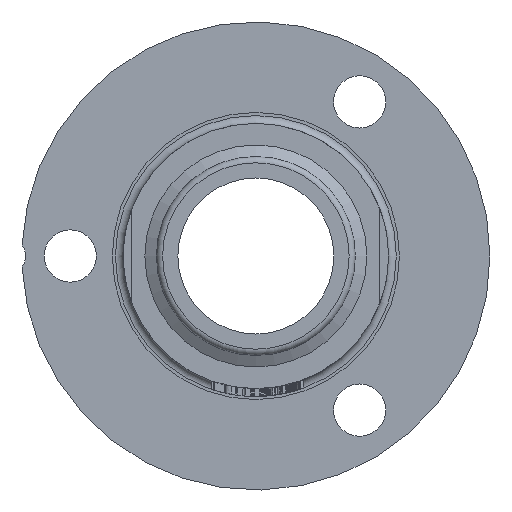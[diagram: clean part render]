
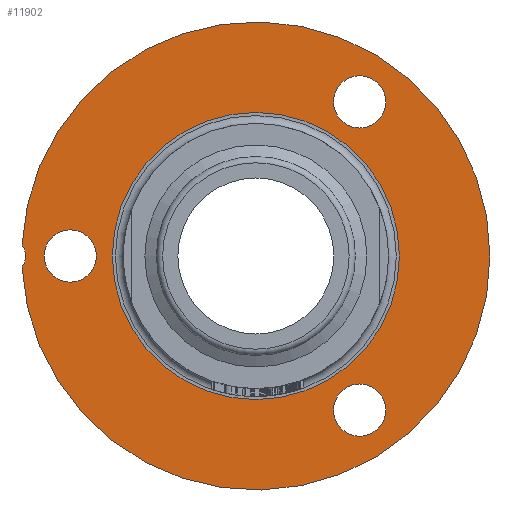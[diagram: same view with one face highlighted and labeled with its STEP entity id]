
A CAD part, front view. The second image highlights one B-rep face of the part: STEP entity #11902.
In plain terms, the highlighted planar face has unit normal (0, -1, 0).
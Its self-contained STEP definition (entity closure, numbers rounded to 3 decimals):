
#797=PLANE('',#12973);
#1020=FACE_BOUND('',#2341,.T.);
#1021=FACE_BOUND('',#2342,.T.);
#1022=FACE_BOUND('',#2343,.T.);
#1023=FACE_BOUND('',#2344,.T.);
#1646=FACE_OUTER_BOUND('',#2340,.T.);
#2340=EDGE_LOOP('',(#11092,#11093));
#2341=EDGE_LOOP('',(#11094,#11095));
#2342=EDGE_LOOP('',(#11096,#11097));
#2343=EDGE_LOOP('',(#11098,#11099));
#2344=EDGE_LOOP('',(#11100,#11101));
#2596=CIRCLE('',#12952,2.5);
#2607=CIRCLE('',#12965,3.35);
#2608=CIRCLE('',#12966,3.35);
#2609=CIRCLE('',#12968,3.35);
#2610=CIRCLE('',#12969,3.35);
#2611=CIRCLE('',#12971,3.35);
#2612=CIRCLE('',#12972,3.35);
#2613=CIRCLE('',#12974,30.);
#2614=CIRCLE('',#12975,18.4);
#2615=CIRCLE('',#12976,18.4);
#5825=VERTEX_POINT('',#26368);
#5827=VERTEX_POINT('',#26371);
#5837=VERTEX_POINT('',#26395);
#5838=VERTEX_POINT('',#26396);
#5839=VERTEX_POINT('',#26401);
#5840=VERTEX_POINT('',#26402);
#5841=VERTEX_POINT('',#26407);
#5842=VERTEX_POINT('',#26408);
#5843=VERTEX_POINT('',#26414);
#5844=VERTEX_POINT('',#26415);
#7587=EDGE_CURVE('',#5827,#5825,#2596,.T.);
#7599=EDGE_CURVE('',#5837,#5838,#2607,.T.);
#7600=EDGE_CURVE('',#5838,#5837,#2608,.T.);
#7602=EDGE_CURVE('',#5839,#5840,#2609,.T.);
#7603=EDGE_CURVE('',#5840,#5839,#2610,.T.);
#7605=EDGE_CURVE('',#5841,#5842,#2611,.T.);
#7606=EDGE_CURVE('',#5842,#5841,#2612,.T.);
#7608=EDGE_CURVE('',#5827,#5825,#2613,.T.);
#7609=EDGE_CURVE('',#5843,#5844,#2614,.T.);
#7610=EDGE_CURVE('',#5844,#5843,#2615,.T.);
#11092=ORIENTED_EDGE('',*,*,#7587,.T.);
#11093=ORIENTED_EDGE('',*,*,#7608,.F.);
#11094=ORIENTED_EDGE('',*,*,#7599,.T.);
#11095=ORIENTED_EDGE('',*,*,#7600,.T.);
#11096=ORIENTED_EDGE('',*,*,#7602,.T.);
#11097=ORIENTED_EDGE('',*,*,#7603,.T.);
#11098=ORIENTED_EDGE('',*,*,#7605,.T.);
#11099=ORIENTED_EDGE('',*,*,#7606,.T.);
#11100=ORIENTED_EDGE('',*,*,#7609,.T.);
#11101=ORIENTED_EDGE('',*,*,#7610,.T.);
#11902=ADVANCED_FACE('',(#1646,#1020,#1021,#1022,#1023),#797,.T.);
#12952=AXIS2_PLACEMENT_3D('',#26372,#15880,#15881);
#12965=AXIS2_PLACEMENT_3D('',#26397,#15907,#15908);
#12966=AXIS2_PLACEMENT_3D('',#26398,#15909,#15910);
#12968=AXIS2_PLACEMENT_3D('',#26403,#15914,#15915);
#12969=AXIS2_PLACEMENT_3D('',#26404,#15916,#15917);
#12971=AXIS2_PLACEMENT_3D('',#26409,#15921,#15922);
#12972=AXIS2_PLACEMENT_3D('',#26410,#15923,#15924);
#12973=AXIS2_PLACEMENT_3D('',#26412,#15926,#15927);
#12974=AXIS2_PLACEMENT_3D('',#26413,#15928,#15929);
#12975=AXIS2_PLACEMENT_3D('',#26416,#15930,#15931);
#12976=AXIS2_PLACEMENT_3D('',#26417,#15932,#15933);
#15880=DIRECTION('center_axis',(0.,1.,0.));
#15881=DIRECTION('ref_axis',(0.,0.,1.));
#15907=DIRECTION('center_axis',(0.,1.,0.));
#15908=DIRECTION('ref_axis',(0.,0.,1.));
#15909=DIRECTION('center_axis',(0.,1.,0.));
#15910=DIRECTION('ref_axis',(0.,0.,1.));
#15914=DIRECTION('center_axis',(0.,1.,0.));
#15915=DIRECTION('ref_axis',(0.,0.,1.));
#15916=DIRECTION('center_axis',(0.,1.,0.));
#15917=DIRECTION('ref_axis',(0.,0.,1.));
#15921=DIRECTION('center_axis',(0.,1.,0.));
#15922=DIRECTION('ref_axis',(0.,0.,1.));
#15923=DIRECTION('center_axis',(0.,1.,0.));
#15924=DIRECTION('ref_axis',(0.,0.,1.));
#15926=DIRECTION('center_axis',(0.,-1.,0.));
#15927=DIRECTION('ref_axis',(0.,0.,1.));
#15928=DIRECTION('center_axis',(0.,1.,0.));
#15929=DIRECTION('ref_axis',(-1.,0.,0.));
#15930=DIRECTION('center_axis',(0.,1.,0.));
#15931=DIRECTION('ref_axis',(-1.,0.,0.));
#15932=DIRECTION('center_axis',(0.,1.,0.));
#15933=DIRECTION('ref_axis',(-1.,0.,0.));
#26368=CARTESIAN_POINT('',(-29.967,44.5,-1.415));
#26371=CARTESIAN_POINT('',(-29.967,44.5,1.415));
#26372=CARTESIAN_POINT('Origin',(-32.027,44.5,0.));
#26395=CARTESIAN_POINT('',(13.3,44.5,-16.4));
#26396=CARTESIAN_POINT('',(13.3,44.5,-23.1));
#26397=CARTESIAN_POINT('Origin',(13.3,44.5,-19.75));
#26398=CARTESIAN_POINT('Origin',(13.3,44.5,-19.75));
#26401=CARTESIAN_POINT('',(-23.8,44.5,3.35));
#26402=CARTESIAN_POINT('',(-23.8,44.5,-3.35));
#26403=CARTESIAN_POINT('Origin',(-23.8,44.5,0.));
#26404=CARTESIAN_POINT('Origin',(-23.8,44.5,0.));
#26407=CARTESIAN_POINT('',(13.3,44.5,23.1));
#26408=CARTESIAN_POINT('',(13.3,44.5,16.4));
#26409=CARTESIAN_POINT('Origin',(13.3,44.5,19.75));
#26410=CARTESIAN_POINT('Origin',(13.3,44.5,19.75));
#26412=CARTESIAN_POINT('Origin',(-24.2,44.5,0.));
#26413=CARTESIAN_POINT('Origin',(0.,44.5,
0.));
#26414=CARTESIAN_POINT('',(-18.4,44.5,0.));
#26415=CARTESIAN_POINT('',(18.4,44.5,0.));
#26416=CARTESIAN_POINT('Origin',(0.,44.5,
0.));
#26417=CARTESIAN_POINT('Origin',(0.,44.5,
0.));
